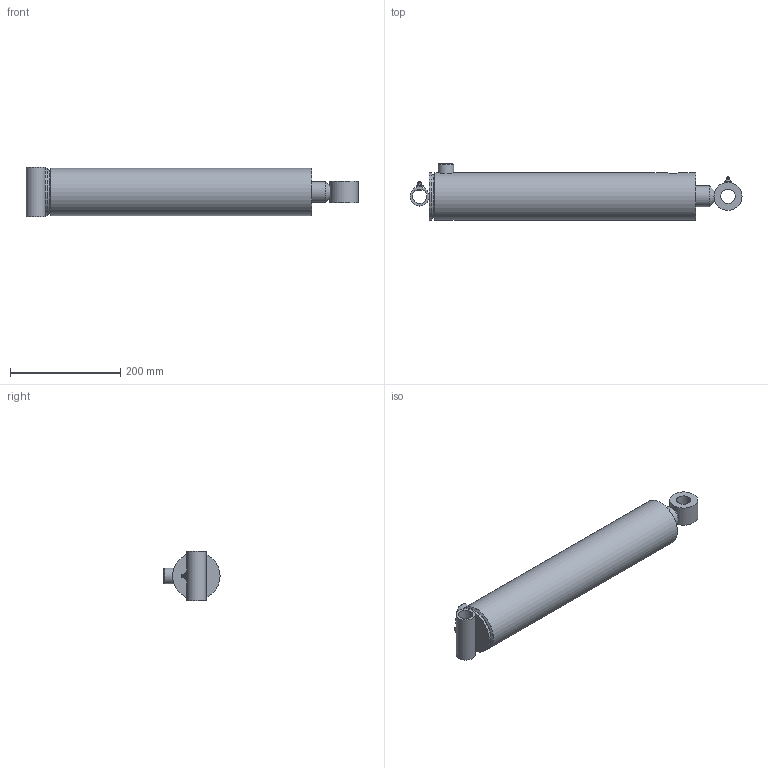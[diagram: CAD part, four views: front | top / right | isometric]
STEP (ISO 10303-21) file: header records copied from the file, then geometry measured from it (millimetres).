
FILE_DESCRIPTION((''),'2;1');
FILE_NAME('C:\Vault\Workspace\Vest\PMC-8314.stp','2012-07-27T12:44:56',('KleberT'),(''),'Autodesk Inventor 2012','Autodesk Inventor 2012','');
FILE_SCHEMA(('AUTOMOTIVE_DESIGN { 1 0 10303 214 1 1 1 1 }'));
Length unit declared in the file: inch
Products named in the file (22): PMC-8314; 061500862; 051500862; 161500007V; 210400412V; 200014403V; 081500401V; 020800371; 010800986; 210400528V; 071500021V; 250001222V; 240020059V; 240061334V; 240000334V; 230001300V; 240000022V; 240004006V; 240034334V; 200018003V; 270010002V; 220000210
Assembly tree (25 placements, depth 3):
  PMC-8314
    061500862
      051500862
      161500007V
      210400412V
      200014403V
    081500401V
    020800371
      010800986
      210400528V
    071500021V
    250001222V
    240020059V
    240061334V
    240000334V  x2
    230001300V
    240000022V
    240004006V
    240034334V  x2
    200018003V  x2
    270010002V  x2
    220000210
Bounding box: 601.68 x 101.6 x 88.9 mm (x, y, z)
Volume: 1571961.4 mm3; surface area: 446128.6 mm2
Topology: 23 solids, 23 shells, 254 faces, 509 edges, 307 vertices
Faces by surface type: plane 115, cylinder 65, cone 36, torus 28, bspline 8, sphere 2
Full cylindrical faces by diameter (mm): 1.524 x2, 2.794 x2, 5.486 x1, 8.839 x1, 9.08 x2, 12.7 x1, 17.463 x1, 17.475 x1, 23.444 x1, 23.825 x1, 25.349 x1, 25.476 x1, 25.908 x1, 26.162 x1, 27.94 x1, 28.575 x1, 34.925 x1, 38.1 x2, 38.176 x2, 39.052 x1, 41.91 x1, 46.025 x2, 46.673 x1, 47.625 x1, 49.2 x1, 50.8 x1, 55.55 x1, 59.69 x1, 66.802 x1, 67.31 x3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
Entity records: 6560 total; most frequent: CARTESIAN_POINT 1834, DIRECTION 953, ORIENTED_EDGE 618, AXIS2_PLACEMENT_3D 436, EDGE_LOOP 369, EDGE_CURVE 309, VERTEX_POINT 246, FACE_OUTER_BOUND 214
